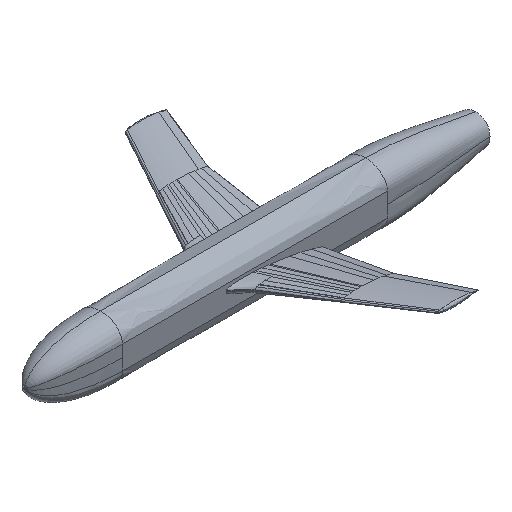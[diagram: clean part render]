
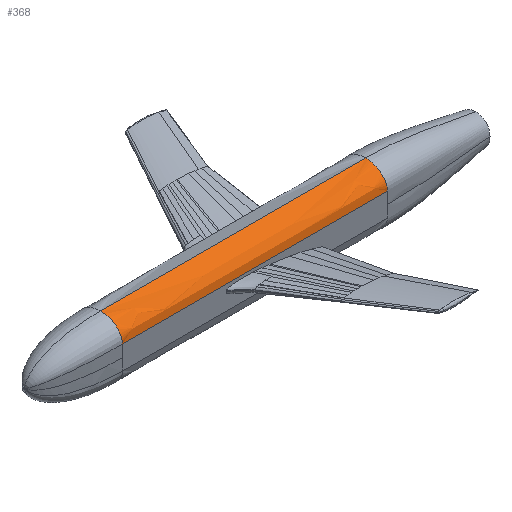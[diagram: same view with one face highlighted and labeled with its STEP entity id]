
A CAD part, isometric view. The second image highlights one B-rep face of the part: STEP entity #368.
In plain terms, the highlighted free-form (B-spline) face has degree [2, 3] with [3, 4] control points.
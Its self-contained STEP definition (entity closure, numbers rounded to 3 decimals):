
#106=(
BOUNDED_SURFACE()
B_SPLINE_SURFACE(2,3,((#52233,#52234,#52235,#52236),(#52237,#52238,#52239,
#52240),(#52241,#52242,#52243,#52244)),.UNSPECIFIED.,.F.,.F.,.F.)
B_SPLINE_SURFACE_WITH_KNOTS((3,3),(4,4),(0.,1.),(0.,1.),.UNSPECIFIED.)
GEOMETRIC_REPRESENTATION_ITEM()
RATIONAL_B_SPLINE_SURFACE(((1.108,1.108,1.108,
1.108),(0.784,0.784,0.784,
0.784),(1.108,1.108,1.108,
1.108)))
REPRESENTATION_ITEM('')
SURFACE()
);
#257=FACE_OUTER_BOUND('',#478,.T.);
#305=(
BOUNDED_CURVE()
B_SPLINE_CURVE(3,(#6454,#6455,#6456,#6457),.UNSPECIFIED.,.F.,.F.)
B_SPLINE_CURVE_WITH_KNOTS((4,4),(0.,1.),.UNSPECIFIED.)
CURVE()
GEOMETRIC_REPRESENTATION_ITEM()
RATIONAL_B_SPLINE_CURVE((1.108,1.108,1.108,
1.108))
REPRESENTATION_ITEM('')
);
#306=(
BOUNDED_CURVE()
B_SPLINE_CURVE(2,(#47877,#47878,#47879),.UNSPECIFIED.,.F.,.F.)
B_SPLINE_CURVE_WITH_KNOTS((3,3),(0.,1.),.UNSPECIFIED.)
CURVE()
GEOMETRIC_REPRESENTATION_ITEM()
RATIONAL_B_SPLINE_CURVE((1.108,0.784,1.108))
REPRESENTATION_ITEM('')
);
#308=(
BOUNDED_CURVE()
B_SPLINE_CURVE(2,(#50113,#50114,#50115),.UNSPECIFIED.,.F.,.F.)
B_SPLINE_CURVE_WITH_KNOTS((3,3),(0.,1.),.UNSPECIFIED.)
CURVE()
GEOMETRIC_REPRESENTATION_ITEM()
RATIONAL_B_SPLINE_CURVE((1.108,0.784,1.108))
REPRESENTATION_ITEM('')
);
#368=ADVANCED_FACE('',(#257),#106,.F.);
#478=EDGE_LOOP('',(#834,#835,#836,#837));
#834=ORIENTED_EDGE('',*,*,#1382,.T.);
#835=ORIENTED_EDGE('',*,*,#1351,.F.);
#836=ORIENTED_EDGE('',*,*,#1376,.T.);
#837=ORIENTED_EDGE('',*,*,#1256,.F.);
#1074=VERTEX_POINT('',#1963);
#1079=VERTEX_POINT('',#4249);
#1136=VERTEX_POINT('',#47692);
#1137=VERTEX_POINT('',#47693);
#1256=EDGE_CURVE('',#1079,#1074,#305,.T.);
#1351=EDGE_CURVE('',#1136,#1137,#1609,.T.);
#1376=EDGE_CURVE('',#1136,#1074,#306,.T.);
#1382=EDGE_CURVE('',#1079,#1137,#308,.T.);
#1609=B_SPLINE_CURVE_WITH_KNOTS('',1,(#47690,#47691),.UNSPECIFIED.,.F.,
 .F.,(2,2),(0.,1.),.UNSPECIFIED.);
#1963=CARTESIAN_POINT('',(3657.6,0.,314.858));
#4249=CARTESIAN_POINT('',(812.8,0.,314.858));
#6454=CARTESIAN_POINT('',(812.8,0.,314.858));
#6455=CARTESIAN_POINT('',(1761.067,0.,314.858));
#6456=CARTESIAN_POINT('',(2709.333,0.,314.858));
#6457=CARTESIAN_POINT('',(3657.6,0.,314.858));
#47690=CARTESIAN_POINT('',(3657.6,-236.098,125.943));
#47691=CARTESIAN_POINT('',(812.8,-236.098,125.943));
#47692=CARTESIAN_POINT('',(3657.6,-236.098,125.943));
#47693=CARTESIAN_POINT('',(812.8,-236.098,125.943));
#47877=CARTESIAN_POINT('',(3657.6,-236.098,125.943));
#47878=CARTESIAN_POINT('',(3657.6,-236.098,314.858));
#47879=CARTESIAN_POINT('',(3657.6,0.,314.858));
#50113=CARTESIAN_POINT('',(812.8,0.,314.858));
#50114=CARTESIAN_POINT('',(812.8,-236.098,314.858));
#50115=CARTESIAN_POINT('',(812.8,-236.098,125.943));
#52233=CARTESIAN_POINT('',(812.8,-236.098,125.943));
#52234=CARTESIAN_POINT('',(1761.067,-236.098,125.943));
#52235=CARTESIAN_POINT('',(2709.333,-236.098,125.943));
#52236=CARTESIAN_POINT('',(3657.6,-236.098,125.943));
#52237=CARTESIAN_POINT('',(812.8,-236.098,314.858));
#52238=CARTESIAN_POINT('',(1761.067,-236.098,314.858));
#52239=CARTESIAN_POINT('',(2709.333,-236.098,314.858));
#52240=CARTESIAN_POINT('',(3657.6,-236.098,314.858));
#52241=CARTESIAN_POINT('',(812.8,0.,314.858));
#52242=CARTESIAN_POINT('',(1761.067,0.,314.858));
#52243=CARTESIAN_POINT('',(2709.333,0.,314.858));
#52244=CARTESIAN_POINT('',(3657.6,0.,314.858));
